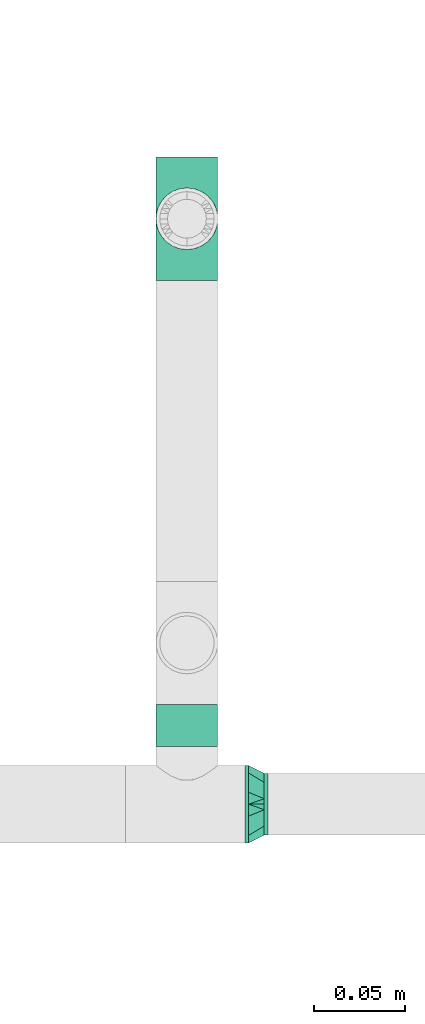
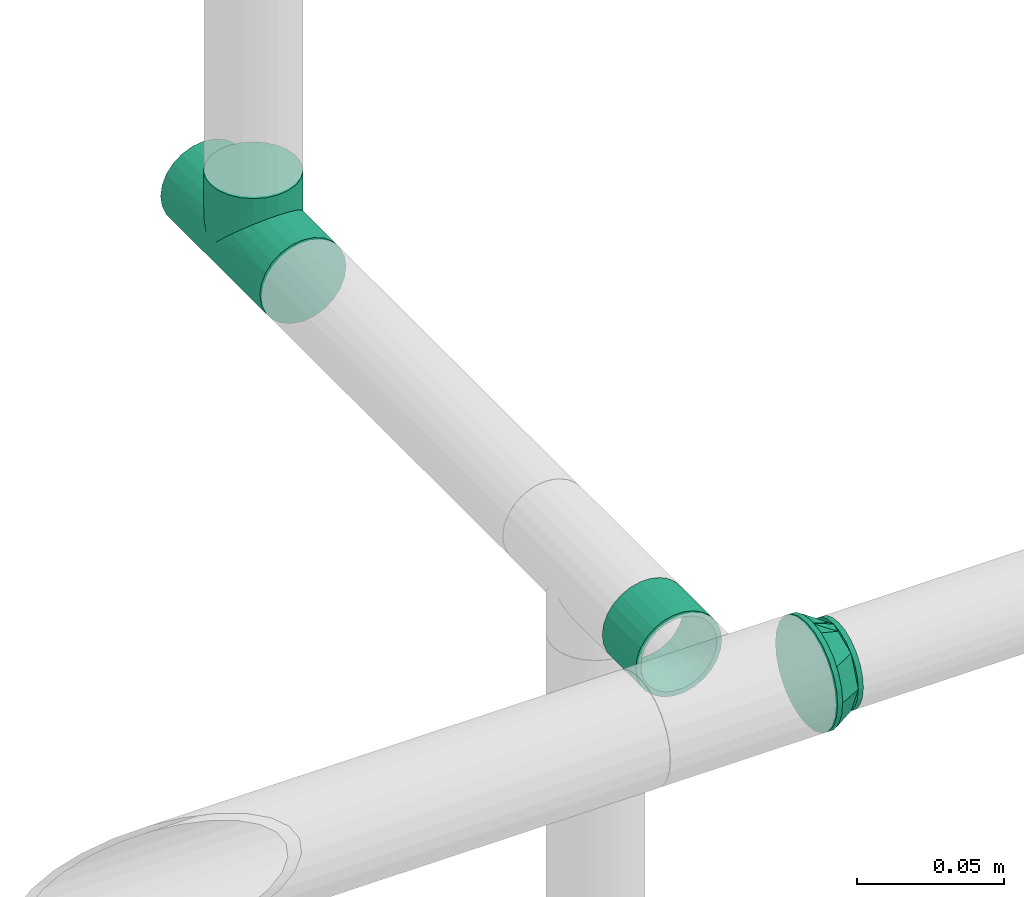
# One storey, part 37 of 94: 2 flow fittings, 1 flow segment.
"""IFC2X3 building model written with IfcOpenShell, lengths in millimetres."""

import ifcopenshell
import ifcopenshell.guid

model = None  # the IFC model being written
_history = None  # IfcOwnerHistory: only IFC2X3 demands one
_inside = {}  # id of a spatial element -> (the spatial element, [elements in it])
_under = {}  # id of a project, library or spatial element -> (it, [spatial elements below it])
_declared = {}  # id of a project -> (the project, [libraries it declares])
_typed = {}  # id of a type object -> (the type object, [elements of that type])
_made_of = {}  # id of a material, layer set ... -> (it, [elements and type objects made of it])


def new_model(schema):
    """Start an empty IFC model of exactly this schema.

    Asked for "IFC4X3", IfcOpenShell would pick the latest addendum, in which some entities
    have other attributes; the version numbers below select the first issue.
    IFC2X3 requires an IfcOwnerHistory on every rooted entity: one is made here for all.
    """
    global model, _history
    if schema == "IFC4X3":
        model = ifcopenshell.file(schema_version=(4, 3, 0, 0))
    else:
        model = ifcopenshell.file(schema=schema)
    _inside.clear()
    _under.clear()
    _declared.clear()
    _typed.clear()
    _made_of.clear()
    _history = None
    if model.schema == "IFC2X3":
        org = make("IfcOrganization", Name="unknown")
        user = make(
            "IfcPersonAndOrganization",
            ThePerson=make("IfcPerson", FamilyName="unknown"),
            TheOrganization=org,
        )
        app = make(
            "IfcApplication",
            ApplicationDeveloper=org,
            Version="unknown",
            ApplicationFullName="unknown",
            ApplicationIdentifier="unknown",
        )
        _history = make(
            "IfcOwnerHistory",
            OwningUser=user,
            OwningApplication=app,
            ChangeAction="ADDED",
            CreationDate=0,
        )
    return model


def make(cls, **values):
    """One entity of the class cls with the attributes given. An attribute that is None is left unset."""
    return model.create_entity(
        cls, **{name: value for name, value in values.items() if value is not None}
    )


def entity(cls, *values):
    """Any entity or typed value of the class cls, its attributes in the order of the schema. None: left unset."""
    e = model.create_entity(cls)
    for i, value in enumerate(values):
        if value is not None:
            e[i] = value
    return e


def rooted(cls, **values):
    """An entity with a GlobalId (a new one), such as an element, a storey or a relation."""
    return make(cls, GlobalId=ifcopenshell.guid.new(), OwnerHistory=_history, **values)


def si_unit(unit_type, name, prefix=None):
    """IfcSIUnit, for example si_unit("LENGTHUNIT", "METRE", prefix="MILLI")."""
    return make("IfcSIUnit", UnitType=unit_type, Prefix=prefix, Name=name)


def converted_unit(unit_type, name, factor, base, dimensions=None, offset=None):
    """IfcConversionBasedUnit, such as the inch: factor (a typed value) times the base unit."""
    return make(
        "IfcConversionBasedUnit"
        if offset is None
        else "IfcConversionBasedUnitWithOffset",
        ConversionOffset=offset,
        Dimensions=None
        if dimensions is None
        else entity("IfcDimensionalExponents", *dimensions),
        UnitType=unit_type,
        Name=name,
        ConversionFactor=make(
            "IfcMeasureWithUnit", ValueComponent=factor, UnitComponent=base
        ),
    )


def derived_unit(unit_type, elements):
    """IfcDerivedUnit: a product of units, each with its exponent."""
    return make(
        "IfcDerivedUnit",
        Elements=[
            make("IfcDerivedUnitElement", Unit=unit, Exponent=power)
            for unit, power in elements
        ],
        UnitType=unit_type,
    )


def assignment(units):
    """IfcUnitAssignment: the units of a project."""
    return None if units is None else make("IfcUnitAssignment", Units=units)


def point(xyz):
    """IfcCartesianPoint."""
    return None if xyz is None else make("IfcCartesianPoint", Coordinates=xyz)


def direction(xyz):
    """IfcDirection."""
    return None if xyz is None else make("IfcDirection", DirectionRatios=xyz)


def frame(location, z_axis=None, x_axis=None):
    """IfcAxis2Placement3D, a coordinate frame: its origin and axes. An axis left out is left unset."""
    return make(
        "IfcAxis2Placement3D",
        Location=point(location),
        Axis=direction(z_axis),
        RefDirection=direction(x_axis),
    )


def frame_2d(location, x_axis=None):
    """IfcAxis2Placement2D, a coordinate frame in the plane: its origin and x axis."""
    return make(
        "IfcAxis2Placement2D", Location=point(location), RefDirection=direction(x_axis)
    )


def origin_with_axes():
    """The frame at (0, 0, 0) with the z axis (0, 0, 1) and the x axis (1, 0, 0) written out."""
    return frame((0.0, 0.0, 0.0), z_axis=(0.0, 0.0, 1.0), x_axis=(1.0, 0.0, 0.0))


def origin_2d_with_axis():
    """The frame at (0, 0) in the plane with the x axis (1, 0) written out."""
    return frame_2d((0.0, 0.0), x_axis=(1.0, 0.0))


def place(relative_to, where):
    """IfcLocalPlacement: puts the frame where relative to a parent placement (None: the world)."""
    return make(
        "IfcLocalPlacement", PlacementRelTo=relative_to, RelativePlacement=where
    )


def context(
    kind, dimensions, precision=None, world=None, true_north=None, identifier=None
):
    """IfcGeometricRepresentationContext, for example the 3D "Model" context."""
    return make(
        "IfcGeometricRepresentationContext",
        ContextIdentifier=identifier,
        ContextType=kind,
        CoordinateSpaceDimension=dimensions,
        Precision=precision,
        WorldCoordinateSystem=world,
        TrueNorth=true_north,
    )


def subcontext(parent, identifier, kind, view, scale=None):
    """IfcGeometricRepresentationSubContext, for example "Body" below "Model"."""
    return make(
        "IfcGeometricRepresentationSubContext",
        ContextIdentifier=identifier,
        ContextType=kind,
        ParentContext=parent,
        TargetScale=scale,
        TargetView=view,
    )


def project(units=None, contexts=None):
    """IfcProject with its units and contexts."""
    return rooted(
        "IfcProject",
        Name="project",
        RepresentationContexts=contexts,
        UnitsInContext=assignment(units),
    )


def spatial(cls, under=None, at=None, **own):
    """A site, building, storey or space (cls), placed at a placement, below another one or the project."""
    s = rooted(cls, ObjectPlacement=at, **own)
    if under is not None:
        _under.setdefault(under.id(), (under, []))[1].append(s)
    return s


def profile(cls, at=None, kind="AREA", **sizes):
    """A parametric profile (cls). Its sizes go by their IFC names, for example OverallWidth=200.0."""
    return make(cls, ProfileType=kind, Position=at, **sizes)


def hollow_circle(**sizes):
    """IfcCircleHollowProfileDef."""
    return profile("IfcCircleHollowProfileDef", **sizes)


def extrude(swept, where, along, depth):
    """IfcExtrudedAreaSolid: the profile swept, set in the frame where, extruded along a direction by depth."""
    return make(
        "IfcExtrudedAreaSolid",
        SweptArea=swept,
        Position=where,
        ExtrudedDirection=direction(along),
        Depth=depth,
    )


def faces_of(points, faces, orient=None, outer=None):
    """IfcFace entities. A face is a list of loops; a loop is a list of indices into points, from 0.

    orient and outer hold one flag for each loop. By default every Orientation is true, the
    first loop of a face is its IfcFaceOuterBound and the others are IfcFaceBound.
    """
    made = []
    for i, loops in enumerate(faces):
        bounds = []
        for j, loop in enumerate(loops):
            is_outer = j == 0 if outer is None else outer[i][j]
            bounds.append(
                make(
                    "IfcFaceOuterBound" if is_outer else "IfcFaceBound",
                    Bound=make("IfcPolyLoop", Polygon=[points[k] for k in loop]),
                    Orientation=True if orient is None else orient[i][j],
                )
            )
        made.append(make("IfcFace", Bounds=bounds))
    return made


def open_shell(faces, orient=None, outer=None):
    """The faces of one IfcOpenShell. surface_model builds it on its shared points."""
    return ("IfcOpenShell", faces, orient, outer)


def surface_model(cls, points, shells):
    """IfcFaceBasedSurfaceModel or IfcShellBasedSurfaceModel (cls): surfaces that need not close."""
    shared = [point(p) for p in points]
    made = [make(c, CfsFaces=faces_of(shared, fs, o, b)) for c, fs, o, b in shells]
    if cls == "IfcFaceBasedSurfaceModel":
        return make(cls, FbsmFaces=made)
    return make(cls, SbsmBoundary=made)


def shape(context_of_items, identifier, shape_type, items):
    """IfcShapeRepresentation: the items that make up one representation, for example the "Body"."""
    return make(
        "IfcShapeRepresentation",
        ContextOfItems=context_of_items,
        RepresentationIdentifier=identifier,
        RepresentationType=shape_type,
        Items=items,
    )


def source(mapping_origin, context_of_items, identifier, shape_type, items):
    """IfcRepresentationMap: a shape defined once, which mapped items show again and again."""
    return make(
        "IfcRepresentationMap",
        MappingOrigin=mapping_origin,
        MappedRepresentation=shape(context_of_items, identifier, shape_type, items),
    )


def transform(
    local_origin,
    x_axis=None,
    y_axis=None,
    z_axis=None,
    scale=None,
    scale2=None,
    scale3=None,
    uniform=True,
):
    """IfcCartesianTransformationOperator3D, or its non-uniform kind. x_axis, y_axis, z_axis: its Axis1, 2, 3."""
    if uniform:
        return make(
            "IfcCartesianTransformationOperator3D",
            Axis1=direction(x_axis),
            Axis2=direction(y_axis),
            LocalOrigin=point(local_origin),
            Scale=scale,
            Axis3=direction(z_axis),
        )
    return make(
        "IfcCartesianTransformationOperator3DnonUniform",
        Axis1=direction(x_axis),
        Axis2=direction(y_axis),
        LocalOrigin=point(local_origin),
        Scale=scale,
        Axis3=direction(z_axis),
        Scale2=scale2,
        Scale3=scale3,
    )


def mapped(mapping_source, mapping_target):
    """IfcMappedItem: shows the shape of a source again, moved by a transform."""
    return make(
        "IfcMappedItem", MappingSource=mapping_source, MappingTarget=mapping_target
    )


def made_of(thing, what):
    """Note that an element or type object is made of a material, layer set ...; save() writes the relation."""
    if what is not None:
        _made_of.setdefault(what.id(), (what, []))[1].append(thing)
    return thing


def type_object(cls, material=None, **own):
    """A type object (cls), such as IfcWallType, which elements share."""
    return made_of(rooted(cls, **own), material)


def element(
    cls,
    number,
    at=None,
    inside=None,
    cuts=None,
    type_object=None,
    material=None,
    context=None,
    identifier="Body",
    shape_type=None,
    held_by="IfcProductDefinitionShape",
    body=None,
    shapes=None,
    **own,
):
    """One element of the class cls, such as IfcWall. Its Tag is "e" and its number.

    at: its placement. inside: the storey or other place that contains it. cuts: it is an
    opening in that element (IfcRelVoidsElement). A single representation is given by context,
    identifier, shape_type and body (its items); several are given by shapes. held_by: the class
    of the entity that holds the representations. save() writes the other relations.
    """
    e = rooted(cls, Tag="e%d" % number, ObjectPlacement=at, **own)
    if body is not None:
        shapes = [shape(context, identifier, shape_type, body)]
    if shapes is not None:
        e.Representation = make(held_by, Representations=shapes)
    if inside is not None:
        _inside.setdefault(inside.id(), (inside, []))[1].append(e)
    if cuts is not None:
        rooted(
            "IfcRelVoidsElement", RelatingBuildingElement=cuts, RelatedOpeningElement=e
        )
    if type_object is not None:
        _typed.setdefault(type_object.id(), (type_object, []))[1].append(e)
    return made_of(e, material)


def aggregate(whole, parts):
    """IfcRelAggregates: a whole, such as a stair, and the parts it consists of."""
    return rooted("IfcRelAggregates", RelatingObject=whole, RelatedObjects=parts)


def save(model, path):
    """Write the relations noted so far, then the file.

    IfcRelAggregates (storeys below a building ...), IfcRelContainedInSpatialStructure (elements
    in a storey), IfcRelDefinesByType, IfcRelAssociatesMaterial and IfcRelDeclares: one each for
    every whole, place, type object, material and project.
    """
    for whole, parts in _under.values():
        aggregate(whole, parts)
    for where, things in _inside.values():
        rooted(
            "IfcRelContainedInSpatialStructure",
            RelatedElements=things,
            RelatingStructure=where,
        )
    for kind, things in _typed.values():
        rooted("IfcRelDefinesByType", RelatedObjects=things, RelatingType=kind)
    for what, things in _made_of.values():
        rooted("IfcRelAssociatesMaterial", RelatedObjects=things, RelatingMaterial=what)
    for by, libraries in _declared.values():
        rooted("IfcRelDeclares", RelatingContext=by, RelatedDefinitions=libraries)
    model.write(path)


model = new_model("IFC2X3")

# Units and contexts
model_context = context("Model", 3, precision=0.01, world=frame((0.0, 4.29681676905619e-09, 0.0)), true_north=direction((4.01073788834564e-13, 1.0)))
plan_context = context("Plan", 3, precision=0.01, world=frame((0.0, 4.29681676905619e-09, 0.0)), true_north=direction((4.01073788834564e-13, 1.0)))
body_context = subcontext(model_context, "Body", "Model", "MODEL_VIEW")
ifc_project = project(units=[converted_unit("PLANEANGLEUNIT", "DEGREE", entity("IfcPositiveLengthMeasure", 0.0174532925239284), si_unit("PLANEANGLEUNIT", "RADIAN"), dimensions=[0, 0, 0, 0, 0, 0, 0]), si_unit("AREAUNIT", "SQUARE_METRE"), si_unit("LENGTHUNIT", "METRE", prefix="MILLI"), si_unit("MASSUNIT", "GRAM", prefix="KILO"), si_unit("POWERUNIT", "WATT"), si_unit("PRESSUREUNIT", "PASCAL", prefix="KILO"), si_unit("FORCEUNIT", "NEWTON", prefix="KILO"), si_unit("ELECTRICVOLTAGEUNIT", "VOLT"), si_unit("ELECTRICCURRENTUNIT", "AMPERE"), si_unit("THERMODYNAMICTEMPERATUREUNIT", "DEGREE_CELSIUS"), si_unit("TIMEUNIT", "SECOND"), si_unit("VOLUMEUNIT", "CUBIC_METRE"), derived_unit("LINEARVELOCITYUNIT", [(si_unit("LENGTHUNIT", "METRE"), 1), (si_unit("TIMEUNIT", "SECOND"), -1)]), derived_unit("VOLUMETRICFLOWRATEUNIT", [(si_unit("VOLUMEUNIT", "CUBIC_METRE"), 1), (si_unit("TIMEUNIT", "SECOND"), -1)]), derived_unit("THERMALTRANSMITTANCEUNIT", [(si_unit("POWERUNIT", "WATT"), 1), (si_unit("THERMODYNAMICTEMPERATUREUNIT", "KELVIN"), -1), (si_unit("AREAUNIT", "SQUARE_METRE"), -1)]), derived_unit("SOUNDPRESSUREUNIT", [(si_unit("PRESSUREUNIT", "PASCAL"), 1)])], contexts=[model_context, plan_context])

# Site, building, storey
site_placement = place(None, frame((0.0, -4.29681676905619e-09, 0.0), z_axis=(0.0, 0.0, 1.0), x_axis=(1.0, 0.0, 0.0)))
site = spatial("IfcSite", under=ifc_project, at=site_placement, CompositionType="ELEMENT")
building_placement = place(site_placement, frame((0.0, 4.29681676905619e-09, 0.0), z_axis=(0.0, 0.0, 1.0), x_axis=(1.0, 0.0, 0.0)))
building = spatial("IfcBuilding", under=site, at=building_placement, Name="mc-building", CompositionType="ELEMENT")
storey_placement = place(building_placement, frame((0.0, 0.0, 210900.0), z_axis=(0.0, 0.0, 1.0), x_axis=(1.0, 0.0, 0.0)))
storey = spatial("IfcBuildingStorey", under=building, at=storey_placement, Name="Nivå F", CompositionType="ELEMENT", Elevation=210900.0)

# Flow fittings
pipe_fitting_type_1 = type_object("IfcPipeFittingType", Name="magi_pipe_fe_reducer_centric_short_NOR", PredefinedType="TRANSITION")
shared_shape_1 = source(origin_with_axes(), body_context, "Body", "SurfaceModel", [
    surface_model("IfcShellBasedSurfaceModel", [(-2.0, -10.6, -18.35974), (-2.0, 0.0, -21.2), (-2.0, -5.48696, -20.47763), (-2.0, 5.48696, -20.47763), (-2.0, 10.6, -18.35974), (8.6, -11.9501, -11.9501), (8.6, -11.9501, 11.9501), (8.6, -16.9, 0.0), (8.6, 11.9501, -11.9501), (8.6, 16.9, 0.0), (8.6, 0.0, -16.9), (0.0, 17.15116, 12.46105), (0.0, 6.55116, -20.1624), (0.0, -21.2, 0.0), (0.0, -6.55116, -20.1624), (0.0, -17.15116, -12.46105), (8.6, 2.98753, -15.66253), (0.0, 0.0, -20.1624), (0.0, -11.85116, -16.31172), (8.6, -2.98753, -15.66253), (8.6, 8.96258, -13.18758), (8.6, 5.97505, -14.42505), (0.0, 11.85116, -16.31172), (8.6, -5.97505, -14.42505), (8.6, -13.18758, -8.96258), (8.6, -8.96258, -13.18758), (0.0, -6.55116, 20.1624), (8.6, -2.98753, 15.66253), (0.0, 0.0, 20.1624), (8.6, 11.9501, 11.9501), (0.0, 11.85116, 16.31172), (8.6, 2.98753, 15.66253), (0.0, 6.55116, 20.1624), (8.6, -8.96258, 13.18758), (8.6, -5.97505, 14.42505), (0.0, -11.85116, 16.31172), (8.6, 5.97505, 14.42505), (8.6, 13.18758, 8.96258), (8.6, 8.96258, 13.18758), (10.6, 4.37404, -16.32415), (10.6, 8.45, -14.63583), (10.6, 11.9501, -11.9501), (10.6, -8.45, -14.63583), (10.6, 16.32415, -4.37404), (10.6, 16.32415, 4.37404), (10.6, 14.63583, -8.45), (10.6, 0.0, -16.9), (10.6, -4.37404, -16.32415), (10.6, -11.9501, -11.9501), (10.6, -16.32415, -4.37404), (10.6, -14.63583, -8.45), (10.6, -16.32415, 4.37404), (10.6, 16.9, 0.0), (10.6, 14.63583, 8.45), (10.6, 11.9501, 11.9501), (10.6, 4.37404, 16.32415), (10.6, 8.45, 14.63583), (10.6, 0.0, 16.9), (10.6, -14.63583, 8.45), (10.6, -16.9, 0.0), (10.6, -8.45, 14.63583), (10.6, -11.9501, 11.9501), (10.6, -4.37404, 16.32415), (8.6, 4.37404, 16.32415), (8.6, -14.63583, 8.45), (8.6, 0.0, 16.9), (8.6, 16.32415, 4.37404), (8.6, 8.45, 14.63583), (8.6, 14.63583, 8.45), (8.6, -8.45, 14.63583), (8.6, -4.37404, 16.32415), (8.6, -16.32415, 4.37404), (8.6, -16.32415, -4.37404), (8.6, -8.45, -14.63583), (8.6, 16.32415, -4.37404), (8.6, 14.63583, -8.45), (8.6, 8.45, -14.63583), (8.6, 4.37404, -16.32415), (8.6, -14.63583, -8.45), (8.6, -4.37404, -16.32415), (-2.0, 0.0, 21.2), (-2.0, 5.48696, 20.47763), (-2.0, 10.6, 18.35974), (-2.0, 14.99066, 14.99066), (-2.0, 18.35974, 10.6), (-2.0, 20.47763, 5.48696), (-2.0, -21.2, 0.0), (-2.0, -14.99066, -14.99066), (-2.0, -5.48696, 20.47763), (-2.0, -14.99066, 14.99066), (-2.0, -10.6, 18.35974), (-2.0, -18.35974, 10.6), (-2.0, -20.47763, 5.48696), (-2.0, 20.47763, -5.48696), (-2.0, 14.99066, -14.99066), (-2.0, 18.35974, -10.6), (-2.0, -18.35974, -10.6), (-2.0, -20.47763, -5.48696), (-2.0, 21.2, 0.0), (0.0, 10.6, -18.35974), (0.0, 0.0, -21.2), (0.0, 5.48696, -20.47763), (0.0, 20.47763, -5.48696), (0.0, 14.99066, -14.99066), (0.0, -14.99066, -14.99066), (0.0, 18.35974, -10.6), (0.0, -10.6, -18.35974), (0.0, -5.48696, -20.47763), (0.0, -18.35974, -10.6), (0.0, -20.47763, -5.48696), (0.0, -18.35974, 10.6), (0.0, 21.2, 0.0), (0.0, 20.47763, 5.48696), (0.0, 18.35974, 10.6), (0.0, 14.99066, 14.99066), (0.0, 0.0, 21.2), (0.0, 10.6, 18.35974), (0.0, 5.48696, 20.47763), (0.0, -14.99066, 14.99066), (0.0, -20.47763, 5.48696), (0.0, -5.48696, 20.47763), (0.0, -10.6, 18.35974), (0.0, -17.15116, 12.46105), (0.0, 17.15116, -12.46105), (0.0, 14.50116, -14.38638), (8.6, -14.42505, -5.97505), (0.0, -19.17558, -6.23052), (0.0, -18.16337, -9.34579), (8.6, 14.42505, -5.97505), (0.0, 19.17558, -6.23052), (8.6, 13.18758, -8.96258), (8.6, 15.66253, -2.98753), (8.6, -15.66253, -2.98753), (0.0, -14.50116, 14.38638), (8.6, 14.42505, 5.97505), (0.0, 19.17558, 6.23052), (0.0, 18.16337, 9.34579), (8.6, -14.42505, 5.97505), (0.0, -19.17558, 6.23052), (8.6, -13.18758, 8.96258), (8.6, -15.66253, 2.98753), (8.6, 15.66253, 2.98753)], [open_shell([[[0, 1, 2]], [[3, 1, 4]], [[5, 6, 7]], [[8, 9, 10]], [[11, 12, 13]], [[13, 12, 14]], [[13, 14, 15]], [[12, 16, 17]], [[5, 15, 18]], [[17, 19, 14]], [[20, 21, 22]], [[19, 23, 14]], [[12, 21, 16]], [[15, 5, 24]], [[25, 5, 18]], [[22, 8, 20]], [[26, 27, 28]], [[29, 11, 30]], [[28, 31, 32]], [[33, 34, 35]], [[31, 36, 32]], [[26, 34, 27]], [[11, 29, 37]], [[38, 29, 30]], [[35, 6, 33]], [[39, 40, 41]], [[42, 39, 41]], [[41, 43, 44]], [[43, 41, 45]], [[41, 44, 42]], [[46, 42, 47]], [[46, 39, 42]], [[48, 49, 50]], [[49, 48, 42]], [[42, 51, 49]], [[44, 43, 52]], [[44, 53, 54]], [[44, 54, 55]], [[55, 51, 42]], [[55, 54, 56]], [[51, 55, 57]], [[57, 58, 51]], [[59, 49, 51]], [[58, 60, 61]], [[58, 57, 60]], [[60, 57, 62]], [[42, 44, 55]], [[63, 64, 65]], [[66, 63, 67]], [[29, 68, 66]], [[29, 66, 67]], [[64, 63, 66]], [[69, 64, 6]], [[69, 70, 65]], [[65, 64, 69]], [[71, 64, 66]], [[71, 72, 7]], [[71, 66, 73]], [[66, 74, 8]], [[8, 74, 75]], [[8, 76, 77]], [[73, 66, 8]], [[77, 10, 8]], [[72, 5, 78]], [[5, 72, 73]], [[73, 10, 79]], [[72, 71, 73]], [[8, 10, 73]], [[74, 66, 9]], [[72, 49, 7]], [[78, 50, 72]], [[42, 5, 73]], [[78, 5, 48]], [[47, 73, 79]], [[72, 50, 49]], [[49, 59, 7]], [[47, 42, 73]], [[48, 5, 42]], [[48, 50, 78]], [[46, 47, 79]], [[79, 10, 46]], [[77, 39, 10]], [[76, 40, 77]], [[45, 8, 75]], [[76, 8, 41]], [[43, 75, 74]], [[76, 41, 40]], [[40, 39, 77]], [[52, 43, 74]], [[45, 75, 43]], [[45, 41, 8]], [[9, 52, 74]], [[10, 39, 46]], [[66, 44, 9]], [[68, 53, 66]], [[56, 29, 67]], [[68, 29, 54]], [[55, 67, 63]], [[66, 53, 44]], [[44, 52, 9]], [[55, 56, 67]], [[54, 29, 56]], [[54, 53, 68]], [[57, 55, 63]], [[63, 65, 57]], [[70, 62, 65]], [[69, 60, 70]], [[58, 6, 64]], [[69, 6, 61]], [[51, 64, 71]], [[69, 61, 60]], [[60, 62, 70]], [[59, 51, 71]], [[58, 64, 51]], [[58, 61, 6]], [[7, 59, 71]], [[65, 62, 57]], [[80, 81, 82]], [[80, 82, 83]], [[83, 84, 85]], [[83, 85, 80]], [[86, 80, 87]], [[88, 89, 90]], [[88, 80, 89]], [[91, 86, 92]], [[89, 80, 91]], [[80, 86, 91]], [[80, 85, 87]], [[85, 93, 4]], [[94, 93, 95]], [[87, 85, 4]], [[4, 93, 94]], [[86, 96, 97]], [[87, 96, 86]], [[0, 87, 4]], [[1, 0, 4]], [[93, 85, 98]], [[99, 100, 101]], [[102, 99, 103]], [[13, 104, 99]], [[102, 103, 105]], [[102, 13, 99]], [[100, 106, 107]], [[100, 99, 106]], [[108, 13, 109]], [[106, 99, 104]], [[108, 104, 13]], [[110, 102, 111]], [[112, 113, 114]], [[112, 114, 115]], [[116, 117, 115]], [[116, 115, 114]], [[112, 115, 118]], [[13, 110, 119]], [[102, 110, 13]], [[118, 120, 121]], [[110, 112, 118]], [[115, 120, 118]], [[110, 111, 112]], [[97, 109, 86]], [[96, 108, 97]], [[106, 87, 0]], [[96, 87, 104]], [[107, 0, 2]], [[97, 108, 109]], [[109, 13, 86]], [[107, 106, 0]], [[104, 87, 106]], [[104, 108, 96]], [[100, 107, 2]], [[2, 1, 100]], [[3, 101, 1]], [[4, 99, 3]], [[105, 94, 95]], [[4, 94, 103]], [[102, 95, 93]], [[4, 103, 99]], [[99, 101, 3]], [[111, 102, 93]], [[105, 95, 102]], [[105, 103, 94]], [[98, 111, 93]], [[1, 101, 100]], [[85, 112, 98]], [[84, 113, 85]], [[116, 83, 82]], [[84, 83, 114]], [[117, 82, 81]], [[85, 113, 112]], [[112, 111, 98]], [[117, 116, 82]], [[114, 83, 116]], [[114, 113, 84]], [[115, 117, 81]], [[81, 80, 115]], [[88, 120, 80]], [[90, 121, 88]], [[110, 89, 91]], [[90, 89, 118]], [[119, 91, 92]], [[90, 118, 121]], [[121, 120, 88]], [[13, 119, 92]], [[110, 91, 119]], [[110, 118, 89]], [[86, 13, 92]], [[80, 120, 115]], [[65, 6, 29]], [[9, 29, 6]], [[6, 10, 9]], [[10, 6, 5]], [[32, 11, 122]], [[32, 122, 26]], [[122, 11, 13]], [[12, 11, 123]], [[123, 11, 111]], [[8, 22, 124]], [[125, 126, 127]], [[22, 21, 12]], [[8, 124, 123]], [[128, 123, 129]], [[17, 16, 10]], [[123, 128, 130]], [[111, 131, 129]], [[13, 132, 7]], [[18, 23, 25]], [[13, 126, 132]], [[19, 17, 10]], [[131, 111, 9]], [[125, 132, 126]], [[15, 24, 127]], [[24, 125, 127]], [[8, 123, 130]], [[23, 18, 14]], [[131, 128, 129]], [[6, 35, 133]], [[134, 135, 136]], [[35, 34, 26]], [[6, 133, 122]], [[137, 122, 138]], [[28, 27, 65]], [[122, 137, 139]], [[13, 140, 138]], [[111, 141, 9]], [[30, 36, 38]], [[111, 135, 141]], [[31, 28, 65]], [[140, 13, 7]], [[134, 141, 135]], [[11, 37, 136]], [[37, 134, 136]], [[6, 122, 139]], [[36, 30, 32]], [[140, 137, 138]]])]),
])
flow_fitting_1_placement = place(storey_placement, frame((722235.33694, 437906.03424, 3600.0), z_axis=(0.0, 0.0, 1.0), x_axis=(1.0, 0.0, 0.0)))
element("IfcFlowFitting", 1, at=flow_fitting_1_placement, inside=storey, type_object=pipe_fitting_type_1, Name="magi_pipe_fe_reducer_centric_short_NOR", context=body_context, shape_type="MappedRepresentation", body=[
    mapped(shared_shape_1, transform((0.0, 0.0, 0.0), scale=1.0)),
])
pipe_fitting_type_2 = type_object("IfcPipeFittingType", Name="magi_pipe_fe_tee_centric_90_NOR", PredefinedType="JUNCTION")
shared_shape_2 = source(origin_with_axes(), body_context, "Body", "SurfaceModel", [
    surface_model("IfcShellBasedSurfaceModel", [(-33.8, 4.37404, -16.32415), (-33.8, 0.0, -16.9), (-33.8, 16.32415, -4.37404), (-33.8, 8.45, -14.63583), (-33.8, 11.9501, -11.9501), (-33.8, 14.63583, -8.45), (-33.8, -16.9, 0.0), (-33.8, -11.9501, -11.9501), (-33.8, -14.63583, -8.45), (-33.8, -8.45, -14.63583), (-33.8, -4.37404, -16.32415), (-33.8, -16.32415, -4.37404), (-33.8, 14.63583, 8.45), (-33.8, 16.32415, 4.37404), (-33.8, -8.45, 14.63583), (-33.8, 8.45, 14.63583), (-33.8, 11.9501, 11.9501), (-33.8, 4.37404, 16.32415), (-33.8, 0.0, 16.9), (-33.8, -11.9501, 11.9501), (-33.8, -14.63583, 8.45), (-33.8, -16.32415, 4.37404), (-33.8, -4.37404, 16.32415), (-33.8, 16.9, 0.0), (33.8, 4.37404, -16.32415), (33.8, -16.9, 0.0), (33.8, 0.0, -16.9), (33.8, 14.63583, -8.45), (33.8, 8.45, -14.63583), (33.8, 16.32415, -4.37404), (33.8, 11.9501, -11.9501), (33.8, -16.32415, 4.37404), (33.8, -8.45, -14.63583), (33.8, -4.37404, -16.32415), (33.8, -11.9501, -11.9501), (33.8, -14.63583, -8.45), (33.8, -16.32415, -4.37404), (33.8, 16.32415, 4.37404), (33.8, 8.45, 14.63583), (33.8, 14.63583, 8.45), (33.8, 11.9501, 11.9501), (33.8, -8.45, 14.63583), (33.8, 4.37404, 16.32415), (33.8, -14.63583, 8.45), (33.8, -11.9501, 11.9501), (33.8, 0.0, 16.9), (33.8, -4.37404, 16.32415), (33.8, 16.9, 0.0), (16.28698, -16.28698, 4.51047), (16.9, -16.9, 0.0), (14.62704, -14.62704, 8.4652), (9.47213, -9.47213, 13.99602), (12.26343, -12.26343, 11.62834), (-16.9, -16.9, 0.0), (-16.28698, -16.28698, 4.51047), (-14.62704, -14.62704, 8.4652), (-12.26343, -12.26343, 11.62834), (-9.47213, -9.47213, 13.99602), (-6.42894, -6.42894, 15.62942), (6.42894, -6.42894, 15.62942), (3.24522, -3.24522, 16.58549), (0.0, 0.0, 16.9), (-3.24522, -3.24522, 16.58549), (3.24522, -3.24522, -16.58549), (0.0, 0.0, -16.9), (-3.24522, -3.24522, -16.58549), (-6.42894, -6.42894, -15.62942), (6.42894, -6.42894, -15.62942), (9.47213, -9.47213, -13.99602), (12.26343, -12.26343, -11.62834), (14.62704, -14.62704, -8.4652), (16.28698, -16.28698, -4.51047), (-9.47213, -9.47213, -13.99602), (-12.26343, -12.26343, -11.62834), (-16.28698, -16.28698, -4.51047), (-14.62704, -14.62704, -8.4652), (4.37404, -25.35, -16.32415), (-16.9, -25.35, 0.0), (0.0, -25.35, -16.9), (14.63583, -25.35, -8.45), (8.45, -25.35, -14.63583), (16.32415, -25.35, -4.37404), (11.9501, -25.35, -11.9501), (-11.9501, -25.35, -11.9501), (-8.45, -25.35, -14.63583), (-4.37404, -25.35, -16.32415), (-14.63583, -25.35, -8.45), (-16.32415, -25.35, -4.37404), (16.9, -25.35, 0.0), (8.45, -25.35, 14.63583), (16.32415, -25.35, 4.37404), (14.63583, -25.35, 8.45), (-8.45, -25.35, 14.63583), (11.9501, -25.35, 11.9501), (4.37404, -25.35, 16.32415), (-16.32415, -25.35, 4.37404), (-11.9501, -25.35, 11.9501), (-14.63583, -25.35, 8.45), (0.0, -25.35, 16.9), (-4.37404, -25.35, 16.32415)], [open_shell([[[0, 1, 2]], [[3, 0, 4]], [[0, 2, 5]], [[4, 0, 5]], [[6, 2, 1]], [[7, 8, 9]], [[1, 10, 9]], [[11, 6, 8]], [[1, 9, 8]], [[1, 8, 6]], [[6, 12, 2]], [[12, 13, 2]], [[14, 12, 6]], [[12, 14, 15]], [[16, 12, 15]], [[17, 15, 18]], [[19, 14, 20]], [[21, 20, 14]], [[22, 18, 14]], [[14, 6, 21]], [[14, 18, 15]], [[23, 2, 13]], [[24, 25, 26]], [[27, 24, 28]], [[27, 29, 24]], [[27, 28, 30]], [[31, 25, 24]], [[26, 32, 33]], [[26, 34, 32]], [[35, 25, 36]], [[35, 34, 26]], [[25, 35, 26]], [[24, 29, 31]], [[29, 37, 38]], [[38, 37, 39]], [[38, 31, 29]], [[38, 39, 40]], [[41, 38, 42]], [[43, 41, 44]], [[41, 43, 31]], [[41, 45, 46]], [[41, 31, 38]], [[42, 45, 41]], [[29, 47, 37]], [[31, 43, 48]], [[25, 31, 49]], [[49, 31, 48]], [[43, 50, 48]], [[44, 41, 51]], [[50, 43, 52]], [[51, 52, 44]], [[52, 43, 44]], [[53, 54, 21]], [[53, 21, 6]], [[21, 54, 20]], [[54, 55, 20]], [[56, 57, 19]], [[19, 20, 56]], [[19, 57, 14]], [[56, 20, 55]], [[14, 57, 58]], [[51, 41, 59]], [[60, 45, 61]], [[59, 46, 60]], [[46, 59, 41]], [[60, 46, 45]], [[61, 45, 42]], [[39, 37, 13]], [[16, 38, 40]], [[12, 40, 39]], [[42, 38, 15]], [[23, 37, 47]], [[62, 61, 18]], [[62, 22, 58]], [[22, 62, 18]], [[58, 22, 14]], [[61, 17, 18]], [[42, 17, 61]], [[15, 17, 42]], [[15, 38, 16]], [[12, 16, 40]], [[13, 12, 39]], [[37, 23, 13]], [[5, 27, 30]], [[23, 47, 29]], [[30, 28, 3]], [[27, 2, 29]], [[26, 33, 63]], [[26, 64, 24]], [[64, 26, 63]], [[28, 24, 0]], [[64, 0, 24]], [[4, 30, 3]], [[2, 27, 5]], [[5, 30, 4]], [[2, 23, 29]], [[65, 66, 10]], [[1, 0, 64]], [[1, 65, 10]], [[66, 9, 10]], [[0, 3, 28]], [[1, 64, 65]], [[63, 33, 67]], [[32, 34, 68]], [[69, 68, 34]], [[35, 70, 69]], [[69, 34, 35]], [[32, 68, 67]], [[36, 25, 49]], [[36, 71, 35]], [[71, 36, 49]], [[35, 71, 70]], [[72, 9, 66]], [[72, 7, 9]], [[7, 72, 73]], [[7, 73, 8]], [[74, 53, 11]], [[75, 74, 8]], [[74, 11, 8]], [[11, 53, 6]], [[75, 8, 73]], [[32, 67, 33]], [[76, 77, 78]], [[79, 76, 80]], [[79, 81, 76]], [[79, 80, 82]], [[77, 76, 81]], [[78, 83, 84]], [[84, 85, 78]], [[86, 77, 87]], [[83, 78, 86]], [[77, 86, 78]], [[81, 88, 77]], [[89, 88, 90]], [[89, 90, 91]], [[92, 77, 89]], [[89, 91, 93]], [[92, 89, 94]], [[95, 96, 97]], [[96, 95, 92]], [[92, 98, 99]], [[95, 77, 92]], [[94, 98, 92]], [[89, 77, 88]], [[77, 95, 53]], [[54, 53, 95]], [[97, 96, 56]], [[96, 92, 57]], [[95, 97, 54]], [[58, 92, 99]], [[55, 54, 97]], [[56, 55, 97]], [[58, 57, 92]], [[98, 61, 62]], [[58, 99, 62]], [[56, 96, 57]], [[62, 99, 98]], [[94, 60, 98]], [[89, 59, 94]], [[91, 90, 48]], [[52, 93, 91]], [[93, 51, 89]], [[49, 90, 88]], [[59, 60, 94]], [[51, 59, 89]], [[49, 48, 90]], [[50, 52, 91]], [[48, 50, 91]], [[51, 93, 52]], [[98, 60, 61]], [[88, 81, 49]], [[71, 49, 81]], [[79, 82, 69]], [[82, 80, 68]], [[81, 79, 71]], [[67, 80, 76]], [[70, 71, 79]], [[69, 70, 79]], [[67, 68, 80]], [[78, 64, 63]], [[67, 76, 63]], [[69, 82, 68]], [[63, 76, 78]], [[85, 65, 78]], [[84, 66, 85]], [[86, 87, 74]], [[86, 73, 83]], [[72, 84, 83]], [[53, 87, 77]], [[66, 65, 85]], [[72, 66, 84]], [[53, 74, 87]], [[75, 73, 86]], [[74, 75, 86]], [[72, 83, 73]], [[78, 65, 64]]])]),
])
flow_fitting_2_placement = place(storey_placement, frame((722201.53694, 438227.23424, 3600.0), z_axis=(-1.0, 0.0, 0.0), x_axis=(0.0, 1.0, 0.0)))
element("IfcFlowFitting", 2, at=flow_fitting_2_placement, inside=storey, type_object=pipe_fitting_type_2, Name="magi_pipe_fe_tee_centric_90_NOR", context=body_context, shape_type="MappedRepresentation", body=[
    mapped(shared_shape_2, transform((0.0, 0.0, 0.0), scale=1.0)),
])

# Flow segment
pipe_segment_type = type_object("IfcPipeSegmentType", Name="Stålrør normaltykke", PredefinedType="RIGIDSEGMENT")
shared_shape_3 = source(origin_with_axes(), body_context, "Body", "SweptSolid", [
    extrude(hollow_circle(Radius=16.9, WallThickness=2.0, at=origin_2d_with_axis()), frame((0.0, 0.0, 0.0), z_axis=(1.0, 0.0, 0.0), x_axis=(0.0, 1.0, 0.0)), (0.0, 0.0, 1.0), 22.8),
])
flow_segment_placement = place(storey_placement, frame((722201.53694, 437937.83424, 3600.0), z_axis=(0.0, 0.0, 1.0), x_axis=(0.0, 1.0, 0.0)))
element("IfcFlowSegment", 3, at=flow_segment_placement, inside=storey, type_object=pipe_segment_type, Name="Stålrør normaltykke", context=body_context, shape_type="MappedRepresentation", body=[
    mapped(shared_shape_3, transform((0.0, 0.0, 0.0), scale=1.0)),
])

save(model, "model.ifc")
